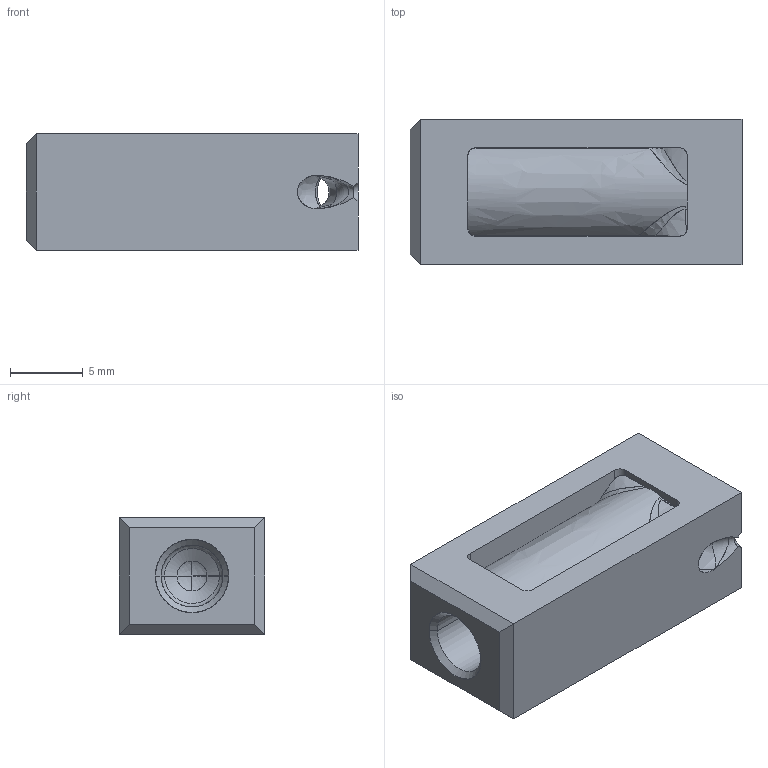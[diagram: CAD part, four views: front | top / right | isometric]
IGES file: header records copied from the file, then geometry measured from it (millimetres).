
Start section: START RECORD GO HERE.
Global section: file name: tgs10-08-s1.igs; native system: DASSAULT SYSTEMES CATIA V5 R20 - www.3ds.com; preprocessor: CATIA Version 5 Release 20 ; author: Utente; organization: NB04-ASUS; date: 20200418.083559; units: millimetre
Bounding box: 22.8 x 10 x 8 mm (x, y, z)
Surface area: 1595 mm2 (no closed solid volume)
Topology: 0 solids, 0 shells, 77 faces, 467 edges, 460 vertices
Faces by surface type: revolution 35, plane 22, bspline 20
